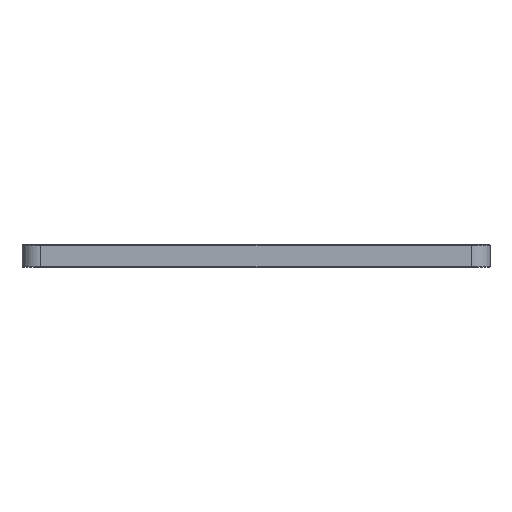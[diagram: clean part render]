
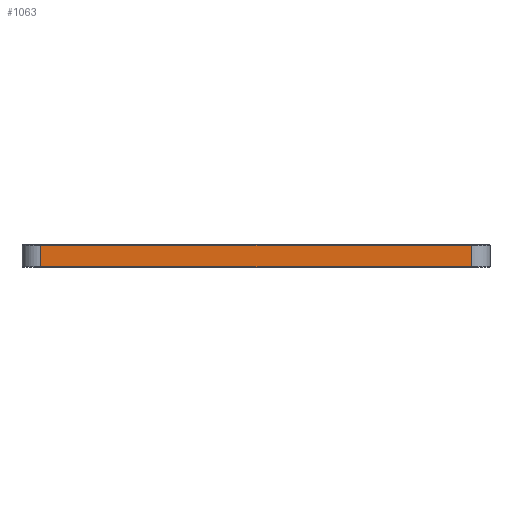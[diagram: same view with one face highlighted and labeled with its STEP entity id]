
A CAD part, left-side view. The second image highlights one B-rep face of the part: STEP entity #1063.
In plain terms, the highlighted planar face has unit normal (-1, 0, 0).
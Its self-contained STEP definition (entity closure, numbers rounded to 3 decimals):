
#261 = VECTOR ( 'NONE', #9685, 1000. ) ;
#289 = CARTESIAN_POINT ( 'NONE',  ( -150., 125., 0.3 ) ) ;
#301 = ORIENTED_EDGE ( 'NONE', *, *, #6554, .T. ) ;
#866 = ORIENTED_EDGE ( 'NONE', *, *, #9723, .T. ) ;
#959 = CARTESIAN_POINT ( 'NONE',  ( -150., -115., 12. ) ) ;
#1063 = ADVANCED_FACE ( 'NONE', ( #5841 ), #7394, .F. ) ;
#1203 = CARTESIAN_POINT ( 'NONE',  ( -150., 115., 11.7 ) ) ;
#1254 = VERTEX_POINT ( 'NONE', #7694 ) ;
#1303 = LINE ( 'NONE', #1203, #4553 ) ;
#1691 = DIRECTION ( 'NONE',  ( 0., -1., 0. ) ) ;
#1772 = LINE ( 'NONE', #959, #5619 ) ;
#2225 = VERTEX_POINT ( 'NONE', #9681 ) ;
#2561 = LINE ( 'NONE', #7944, #261 ) ;
#2597 = VECTOR ( 'NONE', #1691, 1000. ) ;
#3165 = ORIENTED_EDGE ( 'NONE', *, *, #7495, .T. ) ;
#3340 = VERTEX_POINT ( 'NONE', #5359 ) ;
#4385 = DIRECTION ( 'NONE',  ( 1., 0., 0. ) ) ;
#4476 = EDGE_CURVE ( 'NONE', #1254, #3340, #1303, .T. ) ;
#4553 = VECTOR ( 'NONE', #8154, 1000. ) ;
#5217 = EDGE_LOOP ( 'NONE', ( #301, #866, #3165, #8831 ) ) ;
#5359 = CARTESIAN_POINT ( 'NONE',  ( -150., 115., 11.7 ) ) ;
#5619 = VECTOR ( 'NONE', #8776, 1000. ) ;
#5841 = FACE_OUTER_BOUND ( 'NONE', #5217, .T. ) ;
#6554 = EDGE_CURVE ( 'NONE', #3340, #2225, #2561, .T. ) ;
#6761 = DIRECTION ( 'NONE',  ( 0., 1., 0. ) ) ;
#7319 = VERTEX_POINT ( 'NONE', #10080 ) ;
#7394 = PLANE ( 'NONE',  #8658 ) ;
#7495 = EDGE_CURVE ( 'NONE', #7319, #1254, #1772, .T. ) ;
#7694 = CARTESIAN_POINT ( 'NONE',  ( -150., -115., 11.7 ) ) ;
#7944 = CARTESIAN_POINT ( 'NONE',  ( -150., 115., 12. ) ) ;
#8126 = LINE ( 'NONE', #289, #2597 ) ;
#8154 = DIRECTION ( 'NONE',  ( 0., 1., 0. ) ) ;
#8658 = AXIS2_PLACEMENT_3D ( 'NONE', #9125, #4385, #6761 ) ;
#8776 = DIRECTION ( 'NONE',  ( 0., 0., 1. ) ) ;
#8831 = ORIENTED_EDGE ( 'NONE', *, *, #4476, .T. ) ;
#9125 = CARTESIAN_POINT ( 'NONE',  ( -150., 125., 12. ) ) ;
#9681 = CARTESIAN_POINT ( 'NONE',  ( -150., 115., 0.3 ) ) ;
#9685 = DIRECTION ( 'NONE',  ( 0., 0., -1. ) ) ;
#9723 = EDGE_CURVE ( 'NONE', #2225, #7319, #8126, .T. ) ;
#10080 = CARTESIAN_POINT ( 'NONE',  ( -150., -115., 0.3 ) ) ;
